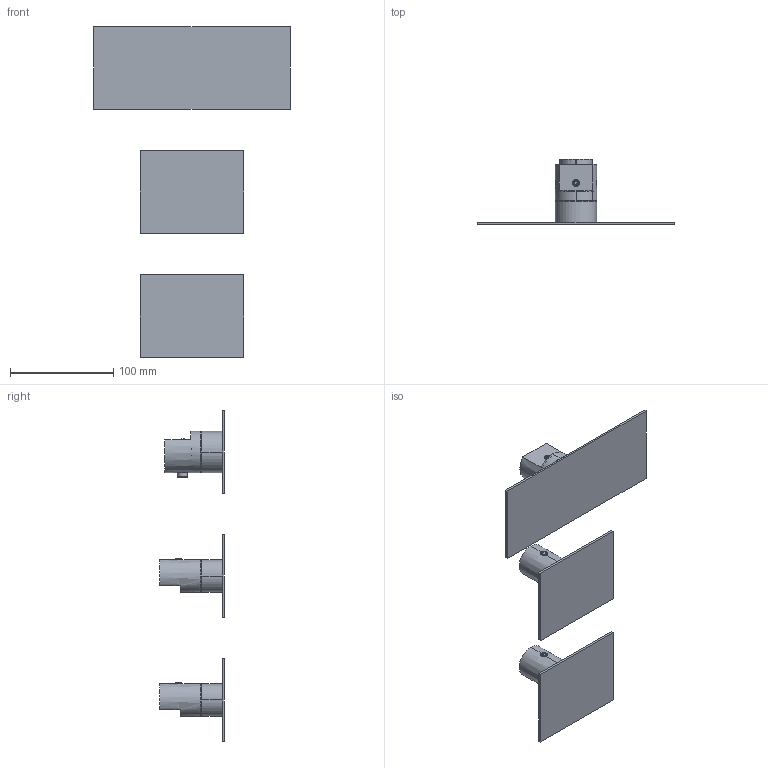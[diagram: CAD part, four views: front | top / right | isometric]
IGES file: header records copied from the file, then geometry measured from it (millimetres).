
Start section:  PTC IGES file: 89760v2.igs
Global section: file name: 89760v2.igs; native system: Creo Parametric by PTC Inc.; preprocessor: 2022014; author: carloff; organization: Unknown; date: 20251124.163139; units: millimetre
Bounding box: 190 x 62.9 x 320 mm (x, y, z)
Surface area: 106327.7 mm2 (no closed solid volume)
Topology: 0 solids, 0 shells, 251 faces, 1130 edges, 1122 vertices
Faces by surface type: revolution 169, bspline 82
